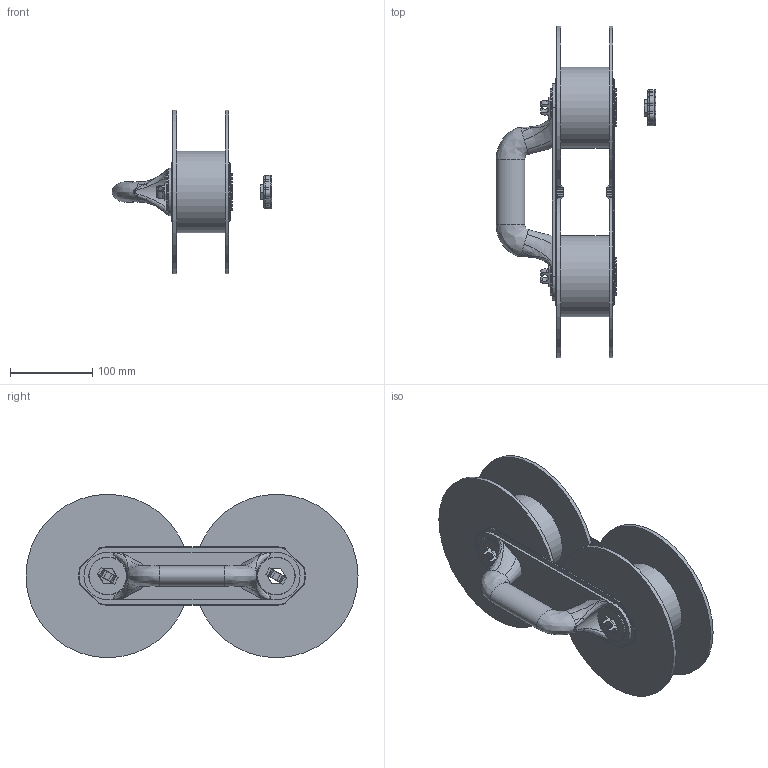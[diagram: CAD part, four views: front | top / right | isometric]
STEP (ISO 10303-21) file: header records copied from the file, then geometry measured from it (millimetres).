
FILE_DESCRIPTION(/* description */ (''),/* implementation_level */ '2;1');
FILE_NAME(/* name */ '_2 SPOOL CORD WRAP_Prusa.stp',/* time_stamp */ '2023-04-27T12:52:13-06:00',/* author */ ('andre'),/* organization */ (''),/* preprocessor_version */ 'ST-DEVELOPER v19.2',/* originating_system */ 'Autodesk Inventor 2023',/* authorisation */ '');
FILE_SCHEMA (('AUTOMOTIVE_DESIGN { 1 0 10303 214 3 1 1 }'));
Length unit declared in the file: inch
Products named in the file (11): _2 SPOOL CORD WRAP; CORD SPOOL CONNECTOR SIDE 2; CORD SPOOL CONNECTOR SIDE 1; WRENCH; HANDLE; BARREL SCREW; SPOOL; SPOOL SIDE; SPOOL CARDBOARD; BARREL NUT; CORD SNAP
Assembly tree (14 placements, depth 3):
  _2 SPOOL CORD WRAP
    CORD SPOOL CONNECTOR SIDE 2
    CORD SPOOL CONNECTOR SIDE 1
    WRENCH
    HANDLE
    BARREL SCREW  x2
    SPOOL  x2
      SPOOL SIDE
      SPOOL CARDBOARD
    BARREL NUT  x2
    CORD SNAP  x2
Bounding box: 194.36 x 404 x 199 mm (x, y, z)
Volume: 1045190.3 mm3; surface area: 542047 mm2
Topology: 16 solids, 16 shells, 1031 faces, 2595 edges, 1620 vertices
Faces by surface type: cylinder 397, plane 289, torus 184, cone 96, bspline 61, sphere 4
Full cylindrical faces by diameter (mm): 30.1 x2, 34.1 x12, 34.5 x14, 38.5 x4, 39 x6, 46 x4, 87 x4, 91 x6, 99 x2, 199 x4
Entity records: 33896 total; most frequent: CARTESIAN_POINT 12234, DIRECTION 4383, ORIENTED_EDGE 4278, EDGE_CURVE 2139, AXIS2_PLACEMENT_3D 1717, VERTEX_POINT 1340, LINE 949, VECTOR 949
